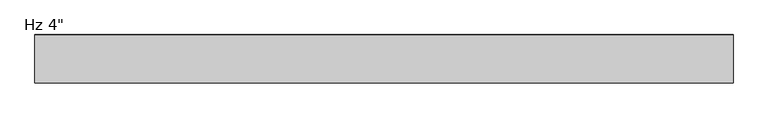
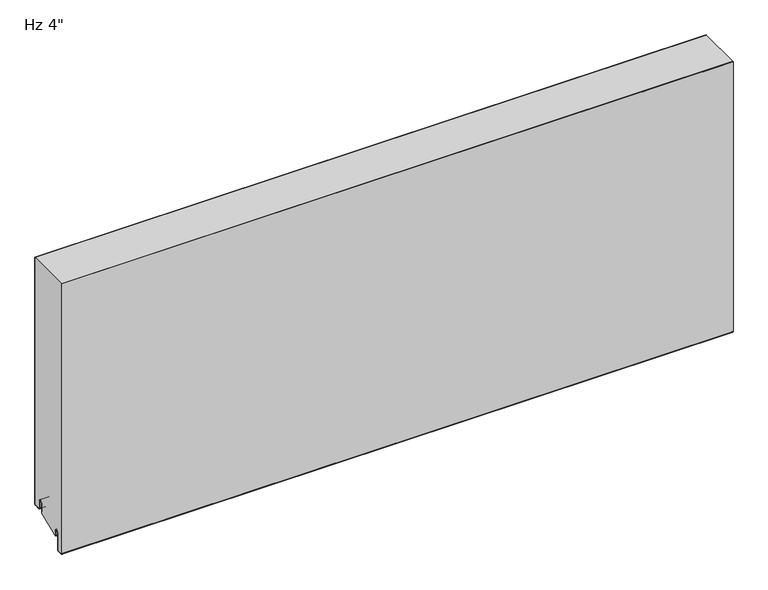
"""IFC4 building model written with IfcOpenShell, lengths in millimetres: plate geometry."""

from ifc_helpers import new_model, si_unit, point, frame, frame_2d, origin, place, context, project, spatial, polyline, circle_curve, trimmed, segment, composite_curve, outline, extrude, source, transform, mapped, element, save


def plate_02fd043f(model_context):
    return source(origin(), model_context, "Body", "SweptSolid", [
        extrude(outline(composite_curve([segment(trimmed(circle_curve(frame_2d((-21.43125, 19.05)), 4.96875), [point((-16.4625, 19.05))], [point((-26.4, 19.05))], True, "CARTESIAN"), True, "CONTINUOUS"), segment(polyline([(-26.4, 19.05), (-26.4, -3.1323422), (-74.6157227, -23.01875), (-76.2, -23.01875), (-76.2, -13.5080174), (-76.99375, -13.5080174), (-76.7875, -11.9205174)]), True, "CONTINUOUS"), segment(trimmed(circle_curve(frame_2d((-81.75625, -11.9205174)), 4.96875), [point((-76.7875, -11.9205174))], [point((-86.725, -11.9205174))], True, "CARTESIAN"), True, "CONTINUOUS"), segment(polyline([(-86.725, -11.9205174), (-86.725, -50.1038221)]), True, "CONTINUOUS"), segment(trimmed(circle_curve(frame_2d((-88.10625, -50.1038221)), 1.38125), [point((-86.725, -50.1038221))], [point((-88.033961, -51.4831791))], False, "CARTESIAN"), True, "CONTINUOUS"), segment(polyline([(-88.033961, -51.4831791), (-99.146461, -52.0655606)]), True, "CONTINUOUS"), segment(trimmed(circle_curve(frame_2d((-99.21875, -50.6862035)), 1.38125), [point((-99.146461, -52.0655606))], [point((-100.6, -50.6862035))], False, "CARTESIAN"), True, "CONTINUOUS"), segment(polyline([(-100.6, -50.6862035), (-100.6, 570.0), (-1.0, 570.0), (-1.0, 3.175)]), True, "CONTINUOUS"), segment(trimmed(circle_curve(frame_2d((-2.38125, 3.175)), 1.38125), [point((-1.0, 3.175))], [point((-2.38125, 1.79375))], False, "CARTESIAN"), True, "CONTINUOUS"), segment(polyline([(-2.38125, 1.79375), (-15.08125, 1.79375)]), True, "CONTINUOUS"), segment(trimmed(circle_curve(frame_2d((-15.08125, 3.175)), 1.38125), [point((-15.08125, 1.79375))], [point((-16.4625, 3.175))], False, "CARTESIAN"), True, "CONTINUOUS"), segment(polyline([(-16.4625, 3.175), (-16.4625, 19.05)]), True, "CONTINUOUS")], self_intersect=False)), frame((-730.0, 0.0, 0.0), z_axis=(1.0, 0.0, 0.0), x_axis=(0.0, 1.0, 0.0)), (0.0, 0.0, 1.0), 1460.0),
        extrude(outline(composite_curve([segment(polyline([(-25.4, 0.79375), (-26.4, 0.79375), (-26.4, 19.05)]), True, "CONTINUOUS"), segment(trimmed(circle_curve(frame_2d((-21.43125, 19.05)), 4.96875), [point((-26.4, 19.05))], [point((-16.4625, 19.05))], False, "CARTESIAN"), True, "CONTINUOUS"), segment(polyline([(-16.4625, 19.05), (-16.4625, 3.175)]), True, "CONTINUOUS"), segment(trimmed(circle_curve(frame_2d((-15.08125, 3.175)), 1.38125), [point((-16.4625, 3.175))], [point((-15.08125, 1.79375))], True, "CARTESIAN"), True, "CONTINUOUS"), segment(polyline([(-15.08125, 1.79375), (-2.38125, 1.79375)]), True, "CONTINUOUS"), segment(trimmed(circle_curve(frame_2d((-2.38125, 3.175)), 1.38125), [point((-2.38125, 1.79375))], [point((-1.0, 3.175))], True, "CARTESIAN"), True, "CONTINUOUS"), segment(polyline([(-1.0, 3.175), (-1.0, 570.0), (0.0, 570.0), (0.0, 3.175)]), True, "CONTINUOUS"), segment(trimmed(circle_curve(frame_2d((-2.38125, 3.175)), 2.38125), [point((0.0, 3.175))], [point((-2.38125, 0.79375))], False, "CARTESIAN"), True, "CONTINUOUS"), segment(polyline([(-2.38125, 0.79375), (-15.08125, 0.79375)]), True, "CONTINUOUS"), segment(trimmed(circle_curve(frame_2d((-15.08125, 3.175)), 2.38125), [point((-15.08125, 0.79375))], [point((-17.4625, 3.175))], False, "CARTESIAN"), True, "CONTINUOUS"), segment(polyline([(-17.4625, 3.175), (-17.4625, 19.05)]), True, "CONTINUOUS"), segment(trimmed(circle_curve(frame_2d((-21.43125, 19.05)), 3.96875), [point((-17.4625, 19.05))], [point((-25.4, 19.05))], True, "CARTESIAN"), True, "CONTINUOUS"), segment(polyline([(-25.4, 19.05), (-25.4, 0.79375)]), True, "CONTINUOUS")], self_intersect=False)), frame((-730.0, 0.0, 0.0), z_axis=(1.0, 0.0, 0.0), x_axis=(0.0, 1.0, 0.0)), (0.0, 0.0, 1.0), 1460.0),
        extrude(outline(composite_curve([segment(trimmed(circle_curve(frame_2d((-76.99375, -23.2314549)), 0.79375), [point((-76.2, -23.2314549))], [point((-77.7875, -23.2314549))], False, "CARTESIAN"), True, "CONTINUOUS"), segment(polyline([(-77.7875, -23.2314549), (-77.7875, -11.9205174)]), True, "CONTINUOUS"), segment(trimmed(circle_curve(frame_2d((-81.75625, -11.9205174)), 3.96875), [point((-77.7875, -11.9205174))], [point((-85.725, -11.9205174))], True, "CARTESIAN"), True, "CONTINUOUS"), segment(polyline([(-85.725, -11.9205174), (-85.725, -50.1038221)]), True, "CONTINUOUS"), segment(trimmed(circle_curve(frame_2d((-88.10625, -50.1038221)), 2.38125), [point((-85.725, -50.1038221))], [point((-87.981625, -52.4818086))], False, "CARTESIAN"), True, "CONTINUOUS"), segment(polyline([(-87.981625, -52.4818086), (-99.094125, -53.0641901)]), True, "CONTINUOUS"), segment(trimmed(circle_curve(frame_2d((-99.21875, -50.6862035)), 2.38125), [point((-99.094125, -53.0641901))], [point((-101.6, -50.6862035))], False, "CARTESIAN"), True, "CONTINUOUS"), segment(polyline([(-101.6, -50.6862035), (-101.6, 570.0), (-100.6, 570.0), (-100.6, -50.6862035)]), True, "CONTINUOUS"), segment(trimmed(circle_curve(frame_2d((-99.21875, -50.6862035)), 1.38125), [point((-100.6, -50.6862035))], [point((-99.146461, -52.0655606))], True, "CARTESIAN"), True, "CONTINUOUS"), segment(polyline([(-99.146461, -52.0655606), (-88.033961, -51.4831791)]), True, "CONTINUOUS"), segment(trimmed(circle_curve(frame_2d((-88.10625, -50.1038221)), 1.38125), [point((-88.033961, -51.4831791))], [point((-86.725, -50.1038221))], True, "CARTESIAN"), True, "CONTINUOUS"), segment(polyline([(-86.725, -50.1038221), (-86.725, -11.9205174)]), True, "CONTINUOUS"), segment(trimmed(circle_curve(frame_2d((-81.75625, -11.9205174)), 4.96875), [point((-86.725, -11.9205174))], [point((-76.7875, -11.9205174))], False, "CARTESIAN"), True, "CONTINUOUS"), segment(polyline([(-76.7875, -11.9205174), (-76.99375, -13.5080174), (-76.2, -13.5080174), (-76.2, -23.2314549)]), True, "CONTINUOUS")], self_intersect=False)), frame((-730.0, 0.0, 0.0), z_axis=(1.0, 0.0, 0.0), x_axis=(0.0, 1.0, 0.0)), (0.0, 0.0, 1.0), 1460.0),
    ])


if __name__ == "__main__":
    model = new_model("IFC4")
    model_context = context("Model", 3, world=origin())
    ifc_project = project(units=[si_unit("LENGTHUNIT", "METRE", prefix="MILLI")], contexts=[model_context])
    site = spatial("IfcSite", under=ifc_project)
    building = spatial("IfcBuilding", under=site)
    placement = place(None, origin())
    plate_shape = plate_02fd043f(model_context)
    element("IfcPlate", 1, ObjectType="KIP-36-DWTR-R19-CP-Hz-F : Hz 4\"", at=placement, inside=building, context=model_context, shape_type="MappedRepresentation", body=[
        mapped(plate_shape, transform((0.0, 0.0, 0.0), x_axis=(1.0, 0.0, 0.0), y_axis=(0.0, 1.0, 0.0), z_axis=(0.0, 0.0, 1.0))),
    ])
    save(model, "model.ifc")
